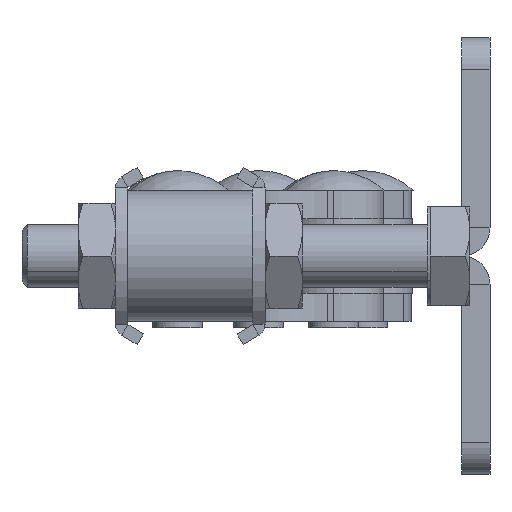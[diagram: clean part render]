
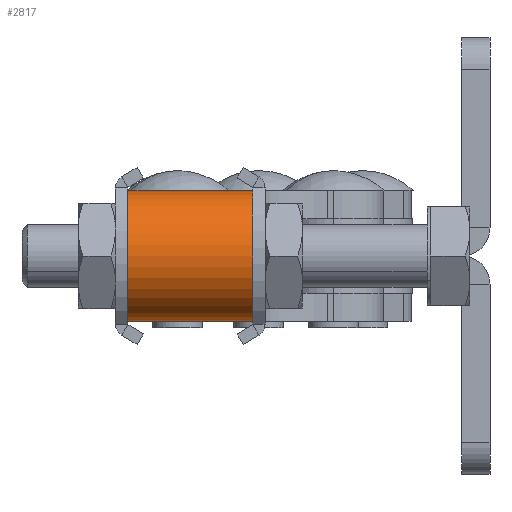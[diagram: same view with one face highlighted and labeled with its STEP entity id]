
A CAD part, left-side view. The second image highlights one B-rep face of the part: STEP entity #2817.
In plain terms, the highlighted cylindrical face has radius 10.5 mm (diameter 21 mm), a partial arc.
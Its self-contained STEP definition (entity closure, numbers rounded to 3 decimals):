
#1316 = CARTESIAN_POINT ( 'NONE',  ( -97.6, 0., -10.5 ) ) ;
#1583 = EDGE_CURVE ( 'NONE', #27897, #49132, #27545, .T. ) ;
#2817 = ADVANCED_FACE ( 'NONE', ( #43284 ), #30475, .T. ) ;
#4012 = DIRECTION ( 'NONE',  ( 0., 1., 0. ) ) ;
#5332 = VECTOR ( 'NONE', #34282, 1000. ) ;
#6832 = ORIENTED_EDGE ( 'NONE', *, *, #1583, .F. ) ;
#9519 = AXIS2_PLACEMENT_3D ( 'NONE', #46057, #42336, #46224 ) ;
#10989 = CARTESIAN_POINT ( 'NONE',  ( -97.6, -41., 10.5 ) ) ;
#12456 = EDGE_LOOP ( 'NONE', ( #6832, #19113, #15161, #31185 ) ) ;
#14264 = DIRECTION ( 'NONE',  ( 0., 1., 0. ) ) ;
#15161 = ORIENTED_EDGE ( 'NONE', *, *, #49391, .T. ) ;
#15974 = EDGE_CURVE ( 'NONE', #27897, #48654, #27959, .T. ) ;
#17381 = CARTESIAN_POINT ( 'NONE',  ( -97.6, -20., -10.5 ) ) ;
#18388 = VECTOR ( 'NONE', #4012, 1000. ) ;
#19113 = ORIENTED_EDGE ( 'NONE', *, *, #15974, .T. ) ;
#21105 = CARTESIAN_POINT ( 'NONE',  ( -97.6, 0., 0. ) ) ;
#24376 = EDGE_CURVE ( 'NONE', #49132, #25137, #31255, .T. ) ;
#25042 = DIRECTION ( 'NONE',  ( 1., 0., 0. ) ) ;
#25137 = VERTEX_POINT ( 'NONE', #48797 ) ;
#27545 = LINE ( 'NONE', #35173, #18388 ) ;
#27897 = VERTEX_POINT ( 'NONE', #17381 ) ;
#27959 = CIRCLE ( 'NONE', #42847, 10.5 ) ;
#30475 = CYLINDRICAL_SURFACE ( 'NONE', #9519, 10.5 ) ;
#31185 = ORIENTED_EDGE ( 'NONE', *, *, #24376, .F. ) ;
#31255 = CIRCLE ( 'NONE', #47651, 10.5 ) ;
#34282 = DIRECTION ( 'NONE',  ( 0., 1., 0. ) ) ;
#35173 = CARTESIAN_POINT ( 'NONE',  ( -97.6, -41., -10.5 ) ) ;
#37449 = CARTESIAN_POINT ( 'NONE',  ( -97.6, -20., 10.5 ) ) ;
#37634 = CARTESIAN_POINT ( 'NONE',  ( -97.6, -20., 0. ) ) ;
#41528 = DIRECTION ( 'NONE',  ( 0., 0., -1. ) ) ;
#42336 = DIRECTION ( 'NONE',  ( 0., 1., 0. ) ) ;
#42847 = AXIS2_PLACEMENT_3D ( 'NONE', #37634, #14264, #41528 ) ;
#43284 = FACE_OUTER_BOUND ( 'NONE', #12456, .T. ) ;
#45494 = LINE ( 'NONE', #10989, #5332 ) ;
#46057 = CARTESIAN_POINT ( 'NONE',  ( -97.6, -41., 0. ) ) ;
#46224 = DIRECTION ( 'NONE',  ( 0., 0., 1. ) ) ;
#47651 = AXIS2_PLACEMENT_3D ( 'NONE', #21105, #48347, #25042 ) ;
#48347 = DIRECTION ( 'NONE',  ( 0., 1., 0. ) ) ;
#48654 = VERTEX_POINT ( 'NONE', #37449 ) ;
#48797 = CARTESIAN_POINT ( 'NONE',  ( -97.6, 0., 10.5 ) ) ;
#49132 = VERTEX_POINT ( 'NONE', #1316 ) ;
#49391 = EDGE_CURVE ( 'NONE', #48654, #25137, #45494, .T. ) ;
